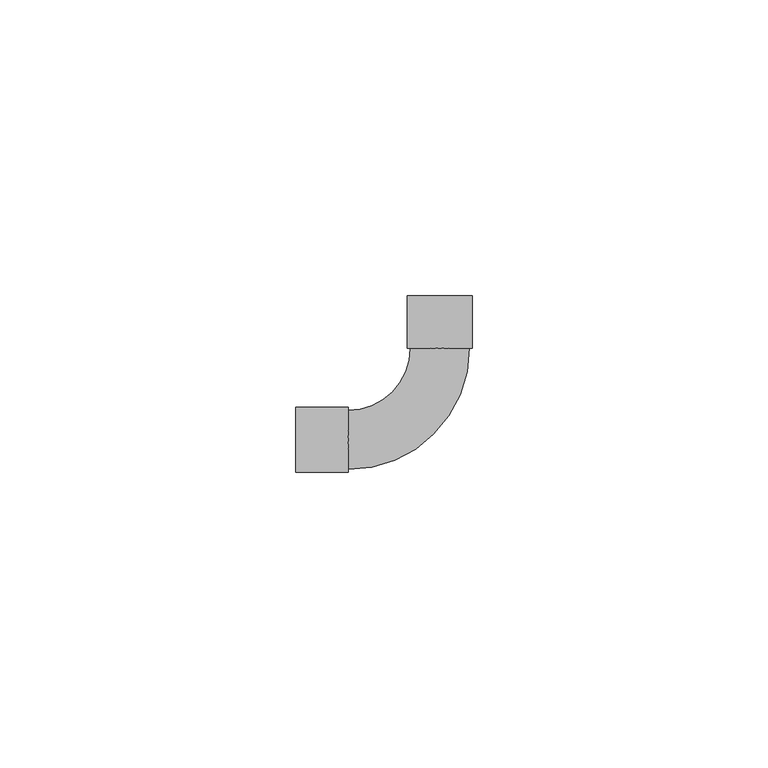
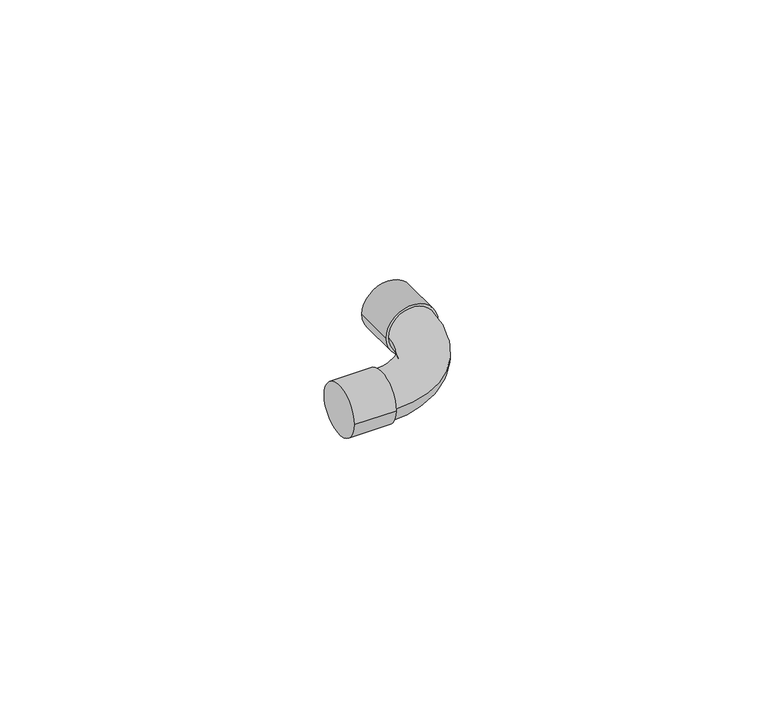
"""IFC4 building model written with IfcOpenShell, lengths in millimetres: pipe fitting geometry, Cotovelo - Soldado - CU : Padrão."""

from ifc_helpers import new_model, si_unit, point, frame, origin, place, context, project, spatial, circle_curve, ellipse_curve, trimmed, source, transform, mapped, element, save
from ifc_brep_helpers import plane_surface, cylinder_surface, revolved_surface, advanced_brep


def pipe_fitting_c180495a(model_context):
    return source(origin(), model_context, "Body", "AdvancedBrep", [
        advanced_brep(
        [(-5.0, 15.5, 0.0), (-15.5, 5.0, 0.0), (-15.5, -5.0, 0.0), (5.0, 15.5, 0.0), (-24.4, -5.5, 0.0), (-24.4, 5.5, 0.0), (-15.5, -5.5, 0.0), (-15.5, 5.5, 0.0), (-5.5, 24.4, 0.0), (5.5, 24.4, 0.0), (-5.5, 15.5, 0.0), (5.5, 15.5, 0.0)],
        [
            (0, 1, circle_curve(frame((-15.5, 15.5, 0.0), z_axis=(0.0, 0.0, -1.0), x_axis=(0.0, -1.0, 0.0)), 10.5)),
            (1, 2, circle_curve(frame((-15.5, 0.0, 0.0), z_axis=(1.0, 0.0, 0.0), x_axis=(0.0, 1.0, 0.0)), 5.0)),
            (2, 3, circle_curve(frame((-15.5, 15.5, 0.0), z_axis=(0.0, 0.0, 1.0), x_axis=(0.0, -1.0, 0.0)), 20.5)),
            (3, 0, circle_curve(frame((0.0, 15.5, 0.0), z_axis=(0.0, -1.0, 0.0), x_axis=(-1.0, 0.0, 0.0)), 5.0)),
            (0, 3, circle_curve(frame((0.0, 15.5, 0.0), z_axis=(0.0, -1.0, 0.0), x_axis=(-1.0, 0.0, 0.0)), 5.0)),
            (2, 1, circle_curve(frame((-15.5, 0.0, 0.0), z_axis=(1.0, 0.0, 0.0), x_axis=(0.0, 1.0, 0.0)), 5.0)),
            (4, 5, circle_curve(frame((-24.4, 0.0, 0.0), z_axis=(-1.0, 0.0, 0.0), x_axis=(0.0, 1.0, 0.0)), 5.5)),
            (5, 4, circle_curve(frame((-24.4, 0.0, 0.0), z_axis=(-1.0, 0.0, 0.0), x_axis=(0.0, 1.0, 0.0)), 5.5)),
            (6, 7, circle_curve(frame((-15.5, 0.0, 0.0), z_axis=(1.0, 0.0, 0.0), x_axis=(0.0, 1.0, 0.0)), 5.5)),
            (7, 6, circle_curve(frame((-15.5, 0.0, 0.0), z_axis=(1.0, 0.0, 0.0), x_axis=(0.0, 1.0, 0.0)), 5.5)),
            (4, 6),
            (7, 5),
            (8, 9, circle_curve(frame((0.0, 24.4, 0.0), z_axis=(0.0, 1.0, 0.0), x_axis=(1.0, 0.0, 0.0)), 5.5)),
            (9, 8, circle_curve(frame((0.0, 24.4, 0.0), z_axis=(0.0, 1.0, 0.0), x_axis=(1.0, 0.0, 0.0)), 5.5)),
            (10, 11, circle_curve(frame((0.0, 15.5, 0.0), z_axis=(0.0, -1.0, 0.0), x_axis=(1.0, 0.0, 0.0)), 5.5)),
            (11, 10, circle_curve(frame((0.0, 15.5, 0.0), z_axis=(0.0, -1.0, 0.0), x_axis=(1.0, 0.0, 0.0)), 5.5)),
            (8, 10),
            (11, 9),
        ],
        [
            revolved_surface(trimmed(ellipse_curve(frame((-15.5, 0.0, 0.0), z_axis=(-1.0, 0.0, 0.0), x_axis=(0.0, 1.0, 0.0)), 5.0, 5.0), [point((-15.5, -5.0, 0.0))], [point((-15.5, 5.0, 0.0))], True, "CARTESIAN"), (-15.5, 15.5, 0.0), (0.0, 0.0, 1.0)),
            revolved_surface(trimmed(ellipse_curve(frame((-15.5, 0.0, 0.0), z_axis=(-1.0, 0.0, 0.0), x_axis=(0.0, 1.0, 0.0)), 5.0, 5.0), [point((-15.5, 5.0, 0.0))], [point((-15.5, -5.0, 0.0))], True, "CARTESIAN"), (-15.5, 15.5, 0.0), (0.0, 0.0, 1.0)),
            plane_surface(frame((-24.4, 0.0, 0.0), z_axis=(-1.0, 0.0, 0.0), x_axis=(0.0, 0.0, 1.0))),
            plane_surface(frame((-15.5, 0.0, 0.0), z_axis=(1.0, 0.0, 0.0), x_axis=(0.0, 0.0, 1.0))),
            cylinder_surface(frame((-24.4, 0.0, 0.0), z_axis=(-1.0, 0.0, 0.0), x_axis=(0.0, 1.0, 0.0)), 5.5),
            plane_surface(frame((0.0, 24.4, 0.0), z_axis=(0.0, 1.0, 0.0), x_axis=(0.0, 0.0, 1.0))),
            plane_surface(frame((0.0, 15.5, 0.0), z_axis=(0.0, -1.0, 0.0), x_axis=(0.0, 0.0, 1.0))),
            cylinder_surface(frame((0.0, 24.4, 0.0), z_axis=(0.0, 1.0, 0.0), x_axis=(1.0, 0.0, 0.0)), 5.5),
        ],
        [
            (0, [[1, 2, 3, 4]]),
            (1, [[-1, 5, -3, 6]]),
            (2, [[7, 8]]),
            (3, [[9, 10], [-2, -6]]),
            (4, [[-7, 11, -10, 12]]),
            (4, [[-8, -12, -9, -11]]),
            (5, [[13, 14]]),
            (6, [[15, 16], [-4, -5]]),
            (7, [[-13, 17, -16, 18]]),
            (7, [[-14, -18, -15, -17]]),
        ],
    ),
    ])


if __name__ == "__main__":
    model = new_model("IFC4")
    model_context = context("Model", 3, world=origin())
    ifc_project = project(units=[si_unit("LENGTHUNIT", "METRE", prefix="MILLI")], contexts=[model_context])
    site = spatial("IfcSite", under=ifc_project)
    building = spatial("IfcBuilding", under=site)
    placement = place(None, origin())
    pipe_fitting_shape = pipe_fitting_c180495a(model_context)
    element("IfcPipeFitting", 1, ObjectType="Cotovelo - Soldado - CU : Padrão", at=placement, inside=building, context=model_context, shape_type="MappedRepresentation", body=[
        mapped(pipe_fitting_shape, transform((0.0, 0.0, 0.0), x_axis=(1.0, 0.0, 0.0), y_axis=(0.0, 1.0, 0.0), z_axis=(0.0, 0.0, 1.0))),
    ])
    save(model, "model.ifc")
